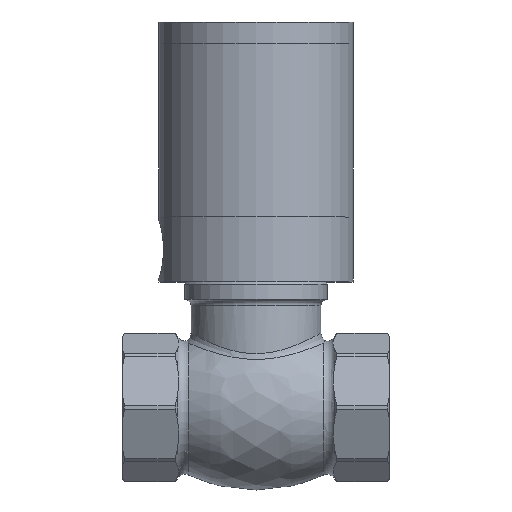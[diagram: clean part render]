
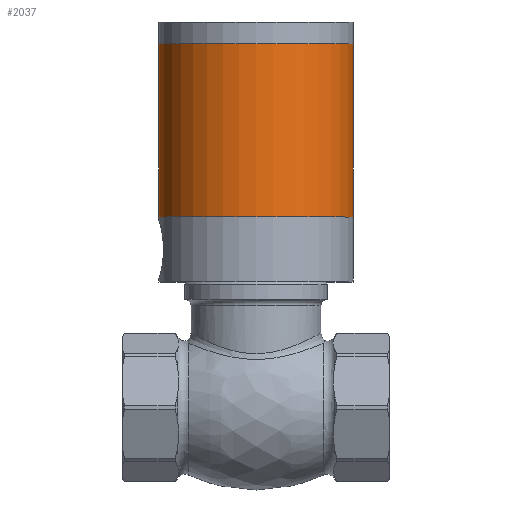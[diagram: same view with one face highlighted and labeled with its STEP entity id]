
A CAD part, top view. The second image highlights one B-rep face of the part: STEP entity #2037.
In plain terms, the highlighted cylindrical face has radius 22.5 mm (diameter 45 mm), a full revolution.
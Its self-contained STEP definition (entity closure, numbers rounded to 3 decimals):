
#344=FACE_BOUND('',#736,.T.);
#409=CIRCLE('',#2218,22.5);
#414=CIRCLE('',#2228,22.5);
#548=FACE_OUTER_BOUND('',#735,.T.);
#735=EDGE_LOOP('',(#1495));
#736=EDGE_LOOP('',(#1496));
#952=VERTEX_POINT('',#3231);
#957=VERTEX_POINT('',#3246);
#1163=EDGE_CURVE('',#952,#952,#409,.T.);
#1168=EDGE_CURVE('',#957,#957,#414,.T.);
#1495=ORIENTED_EDGE('',*,*,#1163,.F.);
#1496=ORIENTED_EDGE('',*,*,#1168,.T.);
#1981=CYLINDRICAL_SURFACE('',#2229,22.5);
#2037=ADVANCED_FACE('',(#548,#344),#1981,.T.);
#2218=AXIS2_PLACEMENT_3D('',#3232,#2577,#2578);
#2228=AXIS2_PLACEMENT_3D('',#3247,#2597,#2598);
#2229=AXIS2_PLACEMENT_3D('',#3248,#2599,#2600);
#2577=DIRECTION('center_axis',(0.,1.,0.));
#2578=DIRECTION('ref_axis',(-1.,0.,0.));
#2597=DIRECTION('center_axis',(0.,1.,0.));
#2598=DIRECTION('ref_axis',(-1.,0.,0.));
#2599=DIRECTION('center_axis',(0.,1.,0.));
#2600=DIRECTION('ref_axis',(-1.,0.,0.));
#3231=CARTESIAN_POINT('',(0.,17.784,0.));
#3232=CARTESIAN_POINT('Origin',(22.5,17.784,0.));
#3246=CARTESIAN_POINT('',(0.,-22.216,0.));
#3247=CARTESIAN_POINT('Origin',(22.5,-22.216,0.));
#3248=CARTESIAN_POINT('Origin',(22.5,-2.216,0.));
